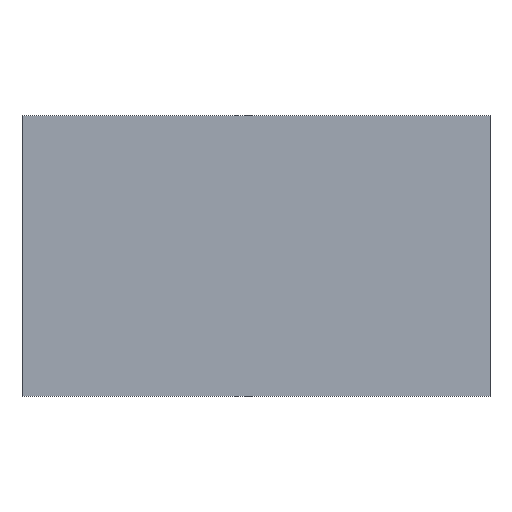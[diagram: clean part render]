
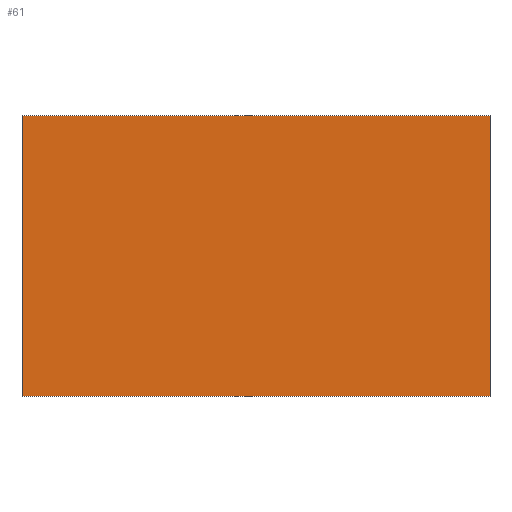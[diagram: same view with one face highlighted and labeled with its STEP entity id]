
A CAD part, front view. The second image highlights one B-rep face of the part: STEP entity #61.
In plain terms, the highlighted planar face has unit normal (0, -1, 0).
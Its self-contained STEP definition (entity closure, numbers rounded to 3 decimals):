
#22 = DIRECTION ( 'NONE',  ( 0., 1., 0. ) ) ;
#23 = DIRECTION ( 'NONE',  ( 1., 0., 0. ) ) ;
#42 = EDGE_CURVE ( 'NONE', #110, #182, #82, .T. ) ;
#43 = DIRECTION ( 'NONE',  ( 0., 0., -1. ) ) ;
#46 = EDGE_CURVE ( 'NONE', #79, #182, #115, .T. ) ;
#53 = EDGE_CURVE ( 'NONE', #147, #79, #188, .T. ) ;
#54 = ORIENTED_EDGE ( 'NONE', *, *, #42, .T. ) ;
#60 = DIRECTION ( 'NONE',  ( 0., 0., 1. ) ) ;
#61 = ADVANCED_FACE ( 'NONE', ( #211 ), #226, .F. ) ;
#64 = CARTESIAN_POINT ( 'NONE',  ( 0., 0., 90. ) ) ;
#79 = VERTEX_POINT ( 'NONE', #175 ) ;
#81 = LINE ( 'NONE', #154, #117 ) ;
#82 = LINE ( 'NONE', #132, #100 ) ;
#100 = VECTOR ( 'NONE', #23, 1000. ) ;
#102 = CARTESIAN_POINT ( 'NONE',  ( 0., 0., 0. ) ) ;
#105 = VECTOR ( 'NONE', #43, 1000. ) ;
#110 = VERTEX_POINT ( 'NONE', #102 ) ;
#115 = LINE ( 'NONE', #210, #105 ) ;
#117 = VECTOR ( 'NONE', #134, 1000. ) ;
#132 = CARTESIAN_POINT ( 'NONE',  ( 0., 0., 0. ) ) ;
#134 = DIRECTION ( 'NONE',  ( 0., 0., -1. ) ) ;
#145 = AXIS2_PLACEMENT_3D ( 'NONE', #176, #22, #60 ) ;
#147 = VERTEX_POINT ( 'NONE', #158 ) ;
#151 = EDGE_LOOP ( 'NONE', ( #54, #205, #224, #237 ) ) ;
#154 = CARTESIAN_POINT ( 'NONE',  ( 0., 0., 90. ) ) ;
#155 = CARTESIAN_POINT ( 'NONE',  ( 150., 0., 0. ) ) ;
#157 = DIRECTION ( 'NONE',  ( 1., 0., 0. ) ) ;
#158 = CARTESIAN_POINT ( 'NONE',  ( 0., 0., 90. ) ) ;
#175 = CARTESIAN_POINT ( 'NONE',  ( 150., 0., 90. ) ) ;
#176 = CARTESIAN_POINT ( 'NONE',  ( 0., 0., 90. ) ) ;
#177 = VECTOR ( 'NONE', #157, 1000. ) ;
#182 = VERTEX_POINT ( 'NONE', #155 ) ;
#188 = LINE ( 'NONE', #64, #177 ) ;
#193 = EDGE_CURVE ( 'NONE', #147, #110, #81, .T. ) ;
#205 = ORIENTED_EDGE ( 'NONE', *, *, #46, .F. ) ;
#210 = CARTESIAN_POINT ( 'NONE',  ( 150., 0., 90. ) ) ;
#211 = FACE_OUTER_BOUND ( 'NONE', #151, .T. ) ;
#224 = ORIENTED_EDGE ( 'NONE', *, *, #53, .F. ) ;
#226 = PLANE ( 'NONE',  #145 ) ;
#237 = ORIENTED_EDGE ( 'NONE', *, *, #193, .T. ) ;
